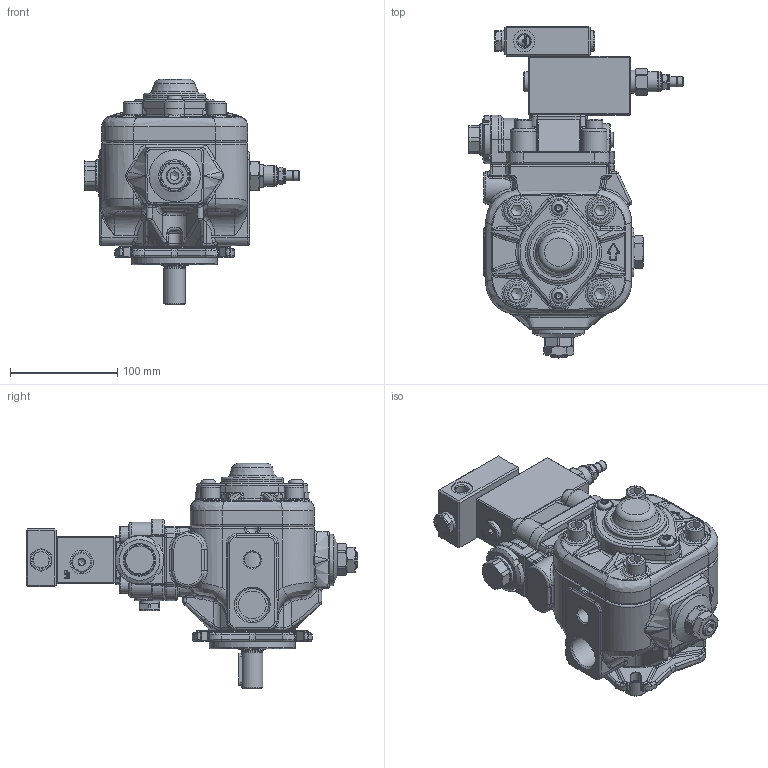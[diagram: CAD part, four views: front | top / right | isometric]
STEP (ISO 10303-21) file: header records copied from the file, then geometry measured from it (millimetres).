
FILE_DESCRIPTION(/* description */ (''),/* implementation_level */ '2;1');
FILE_NAME(/* name */ 'W:\Tecnico\Archivio\Berarma\Dimensioni Pompe\3D Export\Montaggio 3D semplificato\PLP-PHP 05\PHP05 FHRMA PCLS001.stp',/* time_stamp */ '2018-10-10T15:11:37+02:00',/* author */ ('marcop'),/* organization */ (''),/* preprocessor_version */ 'ST-DEVELOPER v17',/* originating_system */ 'Autodesk Inventor 2018',/* authorisation */ '');
FILE_SCHEMA (('AUTOMOTIVE_DESIGN { 1 0 10303 214 3 1 1 }'));
Products named in the file (1): PHP05_Shrinkwrap_1
Bounding box: 200.95 x 309.6 x 210 mm (x, y, z)
Volume: 2444133.7 mm3; surface area: 271661 mm2
Topology: 2 solids, 2 shells, 2492 faces, 6389 edges, 3938 vertices
Faces by surface type: plane 938, cylinder 504, bspline 446, torus 290, cone 278, sphere 36
Full cylindrical faces by diameter (mm): 1.7 x4, 2.5 x2, 3 x1, 4 x4, 5 x7, 6 x4, 6.5 x2, 7.2 x13, 7.671 x2, 8 x1, 8.5 x8, 9 x8, 9.347 x2, 9.5 x1, 11.445 x4, 12 x3, 13 x1, 13.487 x1, 13.5 x1, 13.767 x2, 14 x5, 14.5 x1, 14.63 x1, 14.95 x1, 15 x2, 15.5 x2, 16 x7, 16.376 x1, 16.5 x4, 17 x3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
Entity records: 93448 total; most frequent: CARTESIAN_POINT 33267, ORIENTED_EDGE 12606, DIRECTION 11572, EDGE_CURVE 6303, AXIS2_PLACEMENT_3D 4616, VERTEX_POINT 3938, EDGE_LOOP 2684, CIRCLE 2527
